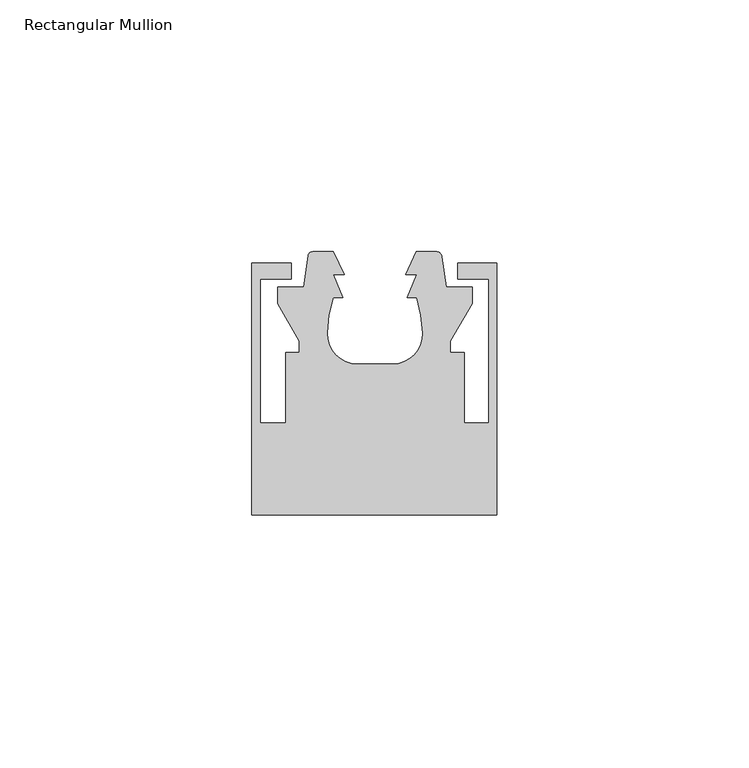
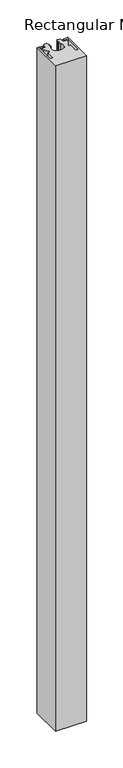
"""IFC4 building model written with IfcOpenShell, lengths in millimetres: member geometry, Rectangular Mullion : Danpal_Airpt."""

from ifc_helpers import new_model, si_unit, point, frame, frame_2d, origin, place, context, project, spatial, polyline, circle_curve, trimmed, segment, composite_curve, outline, extrude, source, transform, mapped, element, save


def rectangular_mullion_29f6557c(model_context):
    return source(origin(), model_context, "Body", "SweptSolid", [
        extrude(outline(composite_curve([segment(polyline([(-16.6, -16.4), (-16.6, -19.6), (-22.8, -19.6), (-22.8, -48.2), (-17.7185077, -48.2), (-17.7185077, -34.2), (-14.9766663, -34.2), (-14.9766663, -31.9202845), (-19.2732051, -24.478461), (-19.3, -21.2), (-14.115585, -21.2)]), True, "CONTINUOUS"), segment(trimmed(circle_curve(frame_2d((137.1078499, -38.5534788)), 152.215868), [point((-14.115585, -21.2))], [point((-13.2693482, -14.9660083))], False, "CARTESIAN"), True, "CONTINUOUS"), segment(trimmed(circle_curve(frame_2d((-12.3738214, -15.1064765)), 0.9064765), [point((-13.2693482, -14.9660083))], [point((-12.3738214, -14.2))], False, "CARTESIAN"), True, "CONTINUOUS"), segment(polyline([(-12.3738214, -14.2), (-8.2308667, -14.2), (-6.0782659, -18.7006239), (-8.2858815, -18.7006239), (-6.3614697, -23.2699289), (-8.2778534, -23.2699289)]), True, "CONTINUOUS"), segment(trimmed(circle_curve(frame_2d((16.4332098, -31.142799)), 25.9348941), [point((-8.2778534, -23.2699289))], [point((-9.488241, -30.3078647))], True, "CARTESIAN"), True, "CONTINUOUS"), segment(trimmed(circle_curve(frame_2d((-3.5093751, -30.500445)), 5.9819667), [point((-9.488241, -30.3078647))], [point((-3.5093751, -36.4824117))], True, "CARTESIAN"), True, "CONTINUOUS"), segment(polyline([(-3.5093751, -36.4824117), (3.5093751, -36.4824117)]), True, "CONTINUOUS"), segment(trimmed(circle_curve(frame_2d((3.5093751, -30.500445)), 5.9819667), [point((3.5093751, -36.4824117))], [point((9.488241, -30.3078647))], True, "CARTESIAN"), True, "CONTINUOUS"), segment(trimmed(circle_curve(frame_2d((-16.4332098, -31.142799)), 25.9348941), [point((9.488241, -30.3078647))], [point((8.2778534, -23.2699289))], True, "CARTESIAN"), True, "CONTINUOUS"), segment(polyline([(8.2778534, -23.2699289), (6.3614697, -23.2699289), (8.2858815, -18.7006239), (6.0782659, -18.7006239), (8.2308667, -14.2), (12.2262756, -14.2)]), True, "CONTINUOUS"), segment(trimmed(circle_curve(frame_2d((12.2262756, -15.2788845)), 1.0788845), [point((12.2262756, -14.2))], [point((13.2922905, -15.1127399))], False, "CARTESIAN"), True, "CONTINUOUS"), segment(trimmed(circle_curve(frame_2d((-137.1078499, -38.5534788)), 152.215868), [point((13.2922905, -15.1127399))], [point((14.115585, -21.2))], False, "CARTESIAN"), True, "CONTINUOUS"), segment(polyline([(14.115585, -21.2), (19.3, -21.2), (19.2732051, -24.478461), (14.9766663, -31.9202845), (14.9766663, -34.2), (17.7185077, -34.2), (17.7185077, -48.2), (22.6, -48.2), (22.6, -19.6), (16.4, -19.6), (16.4, -16.4), (24.2, -16.4), (24.2, -66.4), (-24.4, -66.4), (-24.4, -16.4), (-16.6, -16.4)]), True, "CONTINUOUS")], self_intersect=False)), frame((0.0, 0.0, -1108.6804098), z_axis=(0.0, 0.0, 1.0), x_axis=(1.0, 0.0, 0.0)), (0.0, 0.0, 1.0), 1108.6804098),
    ])


if __name__ == "__main__":
    model = new_model("IFC4")
    model_context = context("Model", 3, world=origin())
    ifc_project = project(units=[si_unit("LENGTHUNIT", "METRE", prefix="MILLI")], contexts=[model_context])
    site = spatial("IfcSite", under=ifc_project)
    building = spatial("IfcBuilding", under=site)
    placement = place(None, origin())
    rectangular_mullion_shape = rectangular_mullion_29f6557c(model_context)
    element("IfcMember", 1, ObjectType="Rectangular Mullion : Danpal_Airpt", at=placement, inside=building, context=model_context, shape_type="MappedRepresentation", body=[
        mapped(rectangular_mullion_shape, transform((0.0, 0.0, 0.0), x_axis=(1.0, 0.0, 0.0), y_axis=(0.0, 1.0, 0.0), z_axis=(0.0, 0.0, 1.0))),
    ])
    save(model, "model.ifc")
